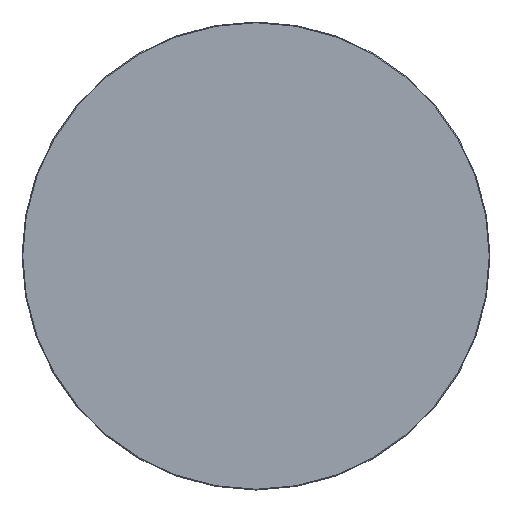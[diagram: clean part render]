
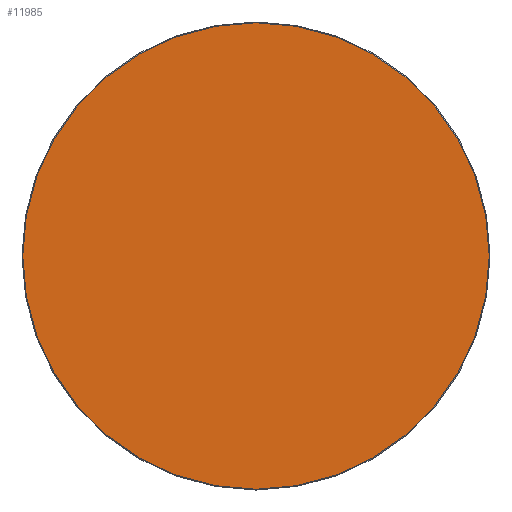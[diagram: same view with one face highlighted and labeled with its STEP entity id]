
A CAD part, top view. The second image highlights one B-rep face of the part: STEP entity #11985.
In plain terms, the highlighted planar face has unit normal (0, 0, 1).
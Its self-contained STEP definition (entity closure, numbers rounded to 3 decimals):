
#11910=CARTESIAN_POINT('',(0.,0.,20.));
#11911=DIRECTION('',(1.,0.,0.));
#11912=DIRECTION('',(0.,0.,1.));
#11913=AXIS2_PLACEMENT_3D('',#11910,#11912,#11911);
#11914=PLANE('',#11913);
#11915=CARTESIAN_POINT('',(-0.5,-448.5,20.));
#11916=VERTEX_POINT('',#11915);
#11917=CARTESIAN_POINT('',(0.5,-448.5,20.));
#11918=VERTEX_POINT('',#11917);
#11919=CARTESIAN_POINT('',(-0.5,-448.5,20.));
#11920=DIRECTION('',(1.,0.,0.));
#11921=VECTOR('',#11920,1.);
#11922=LINE('',#11919,#11921);
#11923=EDGE_CURVE('',#11916,#11918,#11922,.T.);
#11924=ORIENTED_EDGE('E105',*,*,#11923,.T.);
#11925=CARTESIAN_POINT('',(448.5,-0.5,20.));
#11926=VERTEX_POINT('',#11925);
#11927=CARTESIAN_POINT('',(0.5,-0.5,20.));
#11928=DIRECTION('',(0.,-1.,0.));
#11929=DIRECTION('',(0.,0.,1.));
#11930=AXIS2_PLACEMENT_3D('',#11927,#11929,#11928);
#11931=CIRCLE('',#11930,448.);
#11932=EDGE_CURVE('',#11918,#11926,#11931,.T.);
#11933=ORIENTED_EDGE('E107',*,*,#11932,.T.);
#11934=CARTESIAN_POINT('',(448.5,0.5,20.));
#11935=VERTEX_POINT('',#11934);
#11936=CARTESIAN_POINT('',(448.5,-0.5,20.));
#11937=DIRECTION('',(0.,1.,0.));
#11938=VECTOR('',#11937,1.);
#11939=LINE('',#11936,#11938);
#11940=EDGE_CURVE('',#11926,#11935,#11939,.T.);
#11941=ORIENTED_EDGE('E109',*,*,#11940,.T.);
#11942=CARTESIAN_POINT('',(0.5,448.5,20.));
#11943=VERTEX_POINT('',#11942);
#11944=CARTESIAN_POINT('',(0.5,0.5,20.));
#11945=DIRECTION('',(1.,0.,0.));
#11946=DIRECTION('',(0.,0.,1.));
#11947=AXIS2_PLACEMENT_3D('',#11944,#11946,#11945);
#11948=CIRCLE('',#11947,448.);
#11949=EDGE_CURVE('',#11935,#11943,#11948,.T.);
#11950=ORIENTED_EDGE('E111',*,*,#11949,.T.);
#11951=CARTESIAN_POINT('',(-0.5,448.5,20.));
#11952=VERTEX_POINT('',#11951);
#11953=CARTESIAN_POINT('',(0.5,448.5,20.));
#11954=DIRECTION('',(-1.,0.,0.));
#11955=VECTOR('',#11954,1.);
#11956=LINE('',#11953,#11955);
#11957=EDGE_CURVE('',#11943,#11952,#11956,.T.);
#11958=ORIENTED_EDGE('E113',*,*,#11957,.T.);
#11959=CARTESIAN_POINT('',(-448.5,0.5,20.));
#11960=VERTEX_POINT('',#11959);
#11961=CARTESIAN_POINT('',(-0.5,0.5,20.));
#11962=DIRECTION('',(0.,1.,0.));
#11963=DIRECTION('',(0.,0.,1.));
#11964=AXIS2_PLACEMENT_3D('',#11961,#11963,#11962);
#11965=CIRCLE('',#11964,448.);
#11966=EDGE_CURVE('',#11952,#11960,#11965,.T.);
#11967=ORIENTED_EDGE('E115',*,*,#11966,.T.);
#11968=CARTESIAN_POINT('',(-448.5,-0.5,20.));
#11969=VERTEX_POINT('',#11968);
#11970=CARTESIAN_POINT('',(-448.5,0.5,20.));
#11971=DIRECTION('',(0.,-1.,0.));
#11972=VECTOR('',#11971,1.);
#11973=LINE('',#11970,#11972);
#11974=EDGE_CURVE('',#11960,#11969,#11973,.T.);
#11975=ORIENTED_EDGE('E117',*,*,#11974,.T.);
#11976=CARTESIAN_POINT('',(-0.5,-0.5,20.));
#11977=DIRECTION('',(-1.,0.,0.));
#11978=DIRECTION('',(0.,0.,1.));
#11979=AXIS2_PLACEMENT_3D('',#11976,#11978,#11977);
#11980=CIRCLE('',#11979,448.);
#11981=EDGE_CURVE('',#11969,#11916,#11980,.T.);
#11982=ORIENTED_EDGE('E119',*,*,#11981,.T.);
#11983=EDGE_LOOP('',(#11924,#11933,#11941,#11950,#11958,#11967,#11975,#11982));
#11984=FACE_OUTER_BOUND('',#11983,.T.);
#11985=ADVANCED_FACE('F2',(#11984),#11914,.T.);
